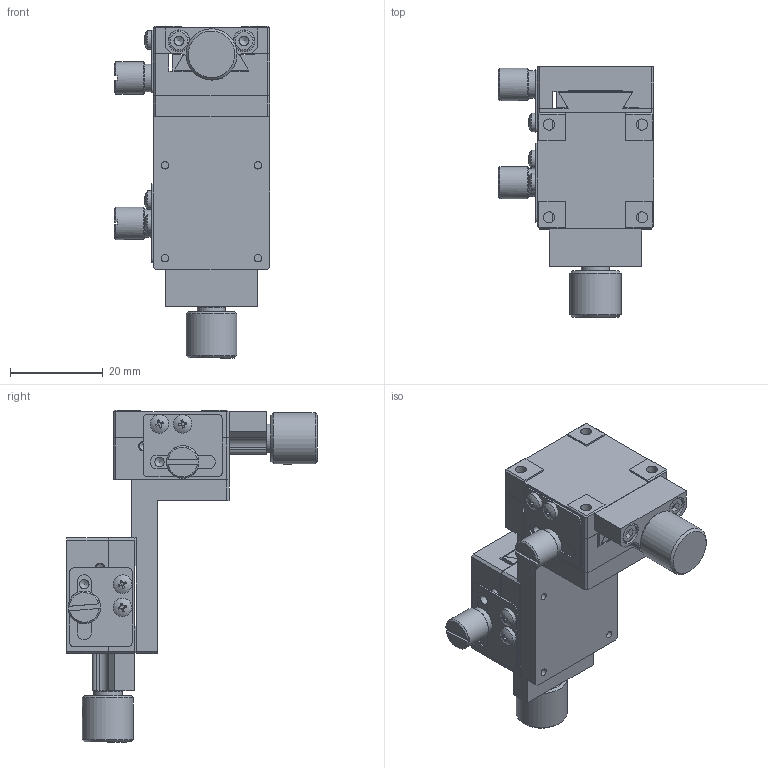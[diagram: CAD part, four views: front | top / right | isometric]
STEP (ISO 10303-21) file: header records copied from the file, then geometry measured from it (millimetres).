
FILE_DESCRIPTION (( 'STEP AP203' ), '1' );
FILE_NAME ('BFE25.STEP', '2024-07-31T02:34:01', ( 'Windows User' ), ( 'P R C' ), 'SwSTEP 2.0', 'SolidWorks 2024', '' );
FILE_SCHEMA (( 'CONFIG_CONTROL_DESIGN' ));
Length unit declared in the file: millimetre
Products named in the file (1): BFE25
Bounding box: 33.4 x 54 x 71.5 mm (x, y, z)
Volume: 26423 mm3; surface area: 22912.9 mm2
Topology: 29 solids, 29 shells, 1296 faces, 3342 edges, 2170 vertices
Faces by surface type: plane 854, cylinder 184, bspline 138, cone 112, sphere 4, torus 4
Full cylindrical faces by diameter (mm): 1.6 x24, 2 x4, 2.05 x14, 2.1 x2, 2.4 x12, 2.5 x14, 2.9 x6, 3 x4, 4 x18, 4.1 x2, 4.2 x4, 4.4 x2, 4.5 x6, 4.7 x4, 6 x4, 6.094 x2, 6.9 x2, 7 x2, 7.5 x2, 11 x2
Entity records: 50619 total; most frequent: CARTESIAN_POINT 21899, ORIENTED_EDGE 6028, DIRECTION 5108, EDGE_CURVE 3014, VERTEX_POINT 2078, VECTOR 1786, LINE 1786, EDGE_LOOP 1686
